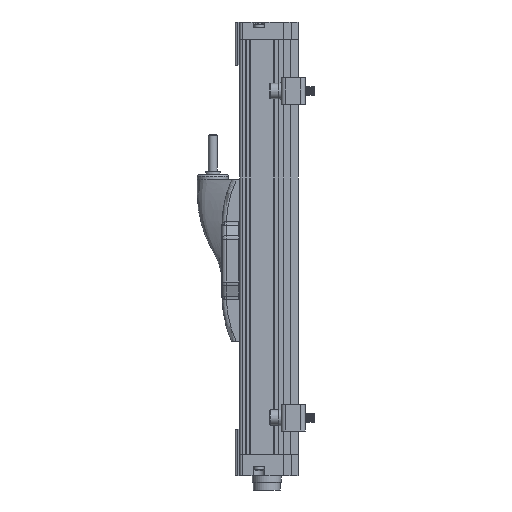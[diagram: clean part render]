
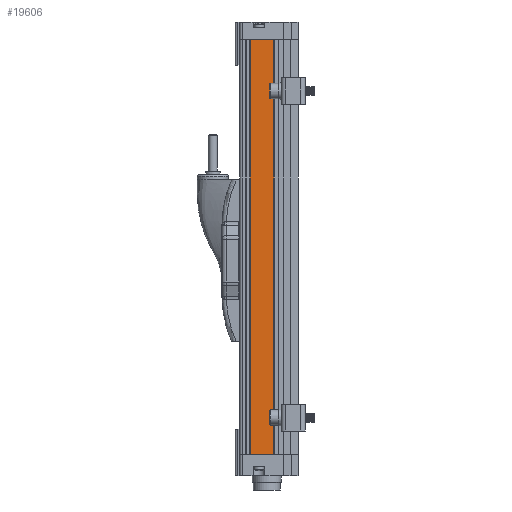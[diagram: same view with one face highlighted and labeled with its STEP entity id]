
A CAD part, left-side view. The second image highlights one B-rep face of the part: STEP entity #19606.
In plain terms, the highlighted planar face has unit normal (-1, 0, 0).
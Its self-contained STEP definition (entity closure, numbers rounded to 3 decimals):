
#665 = DIRECTION ( 'NONE',  ( 0., 0., -1. ) ) ;
#812 = ORIENTED_EDGE ( 'NONE', *, *, #14812, .T. ) ;
#1185 = CARTESIAN_POINT ( 'NONE',  ( 0., 26.7, 231. ) ) ;
#1484 = VECTOR ( 'NONE', #665, 1000. ) ;
#1959 = CARTESIAN_POINT ( 'NONE',  ( 0., -22.785, 0. ) ) ;
#2014 = AXIS2_PLACEMENT_3D ( 'NONE', #8414, #3934, #15024 ) ;
#2031 = DIRECTION ( 'NONE',  ( 0., -1., 0. ) ) ;
#2185 = DIRECTION ( 'NONE',  ( 0., -1., 0. ) ) ;
#2300 = PLANE ( 'NONE',  #2014 ) ;
#3112 = LINE ( 'NONE', #1959, #12005 ) ;
#3851 = VECTOR ( 'NONE', #6950, 1000. ) ;
#3866 = CARTESIAN_POINT ( 'NONE',  ( 0., 26.7, 231. ) ) ;
#3934 = DIRECTION ( 'NONE',  ( 1., 0., 0. ) ) ;
#5167 = CARTESIAN_POINT ( 'NONE',  ( 0., 26.7, 0. ) ) ;
#5690 = CARTESIAN_POINT ( 'NONE',  ( 0., 13.5, 231. ) ) ;
#5898 = VERTEX_POINT ( 'NONE', #19241 ) ;
#5937 = EDGE_CURVE ( 'NONE', #19233, #10083, #12221, .T. ) ;
#6540 = EDGE_CURVE ( 'NONE', #12746, #5898, #3112, .T. ) ;
#6950 = DIRECTION ( 'NONE',  ( 0., 0., -1. ) ) ;
#7489 = LINE ( 'NONE', #3866, #1484 ) ;
#8414 = CARTESIAN_POINT ( 'NONE',  ( 0., -22.785, 231. ) ) ;
#8507 = VECTOR ( 'NONE', #2185, 1000. ) ;
#10083 = VERTEX_POINT ( 'NONE', #5690 ) ;
#12005 = VECTOR ( 'NONE', #2031, 1000. ) ;
#12221 = LINE ( 'NONE', #14988, #8507 ) ;
#12346 = EDGE_LOOP ( 'NONE', ( #19262, #15403, #17605, #812 ) ) ;
#12746 = VERTEX_POINT ( 'NONE', #5167 ) ;
#12884 = FACE_OUTER_BOUND ( 'NONE', #12346, .T. ) ;
#13290 = CARTESIAN_POINT ( 'NONE',  ( 0., 13.5, 231. ) ) ;
#14812 = EDGE_CURVE ( 'NONE', #19233, #12746, #7489, .T. ) ;
#14988 = CARTESIAN_POINT ( 'NONE',  ( 0., -22.785, 231. ) ) ;
#15024 = DIRECTION ( 'NONE',  ( 0., 1., 0. ) ) ;
#15403 = ORIENTED_EDGE ( 'NONE', *, *, #16000, .F. ) ;
#16000 = EDGE_CURVE ( 'NONE', #10083, #5898, #16505, .T. ) ;
#16505 = LINE ( 'NONE', #13290, #3851 ) ;
#17605 = ORIENTED_EDGE ( 'NONE', *, *, #5937, .F. ) ;
#19233 = VERTEX_POINT ( 'NONE', #1185 ) ;
#19241 = CARTESIAN_POINT ( 'NONE',  ( 0., 13.5, 0. ) ) ;
#19262 = ORIENTED_EDGE ( 'NONE', *, *, #6540, .T. ) ;
#19606 = ADVANCED_FACE ( 'NONE', ( #12884 ), #2300, .F. ) ;
